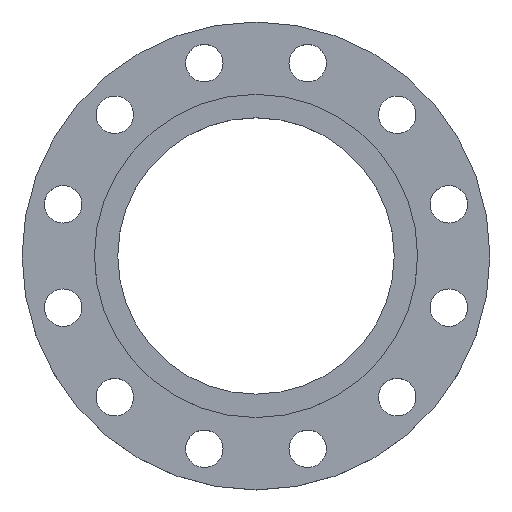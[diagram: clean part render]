
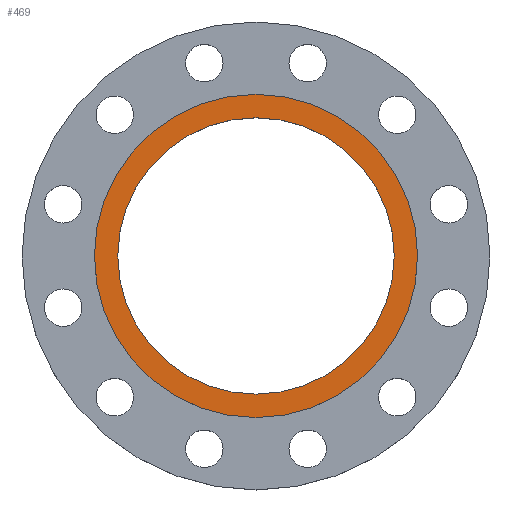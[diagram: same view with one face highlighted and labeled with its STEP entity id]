
A CAD part, top view. The second image highlights one B-rep face of the part: STEP entity #469.
In plain terms, the highlighted planar face has unit normal (0, 0, 1).
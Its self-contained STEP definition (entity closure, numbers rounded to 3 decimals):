
#10 = ORIENTED_EDGE ( 'NONE', *, *, #477, .T. ) ;
#28 = CARTESIAN_POINT ( 'NONE',  ( 0., 0., 0. ) ) ;
#49 = CARTESIAN_POINT ( 'NONE',  ( -110.75, 0., 0. ) ) ;
#122 = ORIENTED_EDGE ( 'NONE', *, *, #193, .F. ) ;
#157 = CIRCLE ( 'NONE', #160, 129.5 ) ;
#160 = AXIS2_PLACEMENT_3D ( 'NONE', #333, #703, #1045 ) ;
#193 = EDGE_CURVE ( 'NONE', #860, #520, #157, .T. ) ;
#204 = CARTESIAN_POINT ( 'NONE',  ( 0., 0., 0. ) ) ;
#213 = CARTESIAN_POINT ( 'NONE',  ( 129.5, 0., 0. ) ) ;
#259 = DIRECTION ( 'NONE',  ( -1., 0., 0. ) ) ;
#299 = DIRECTION ( 'NONE',  ( 0., 0., 1. ) ) ;
#308 = CIRCLE ( 'NONE', #973, 110.75 ) ;
#333 = CARTESIAN_POINT ( 'NONE',  ( 0., 0., 0. ) ) ;
#399 = FACE_OUTER_BOUND ( 'NONE', #543, .T. ) ;
#419 = ORIENTED_EDGE ( 'NONE', *, *, #615, .T. ) ;
#420 = AXIS2_PLACEMENT_3D ( 'NONE', #1099, #299, #677 ) ;
#423 = CIRCLE ( 'NONE', #431, 110.75 ) ;
#431 = AXIS2_PLACEMENT_3D ( 'NONE', #204, #596, #936 ) ;
#432 = VERTEX_POINT ( 'NONE', #1016 ) ;
#436 = DIRECTION ( 'NONE',  ( 0., 0., -1. ) ) ;
#469 = ADVANCED_FACE ( 'NONE', ( #1173, #399 ), #756, .T. ) ;
#477 = EDGE_CURVE ( 'NONE', #1053, #432, #423, .T. ) ;
#478 = EDGE_LOOP ( 'NONE', ( #10, #419 ) ) ;
#520 = VERTEX_POINT ( 'NONE', #213 ) ;
#543 = EDGE_LOOP ( 'NONE', ( #122, #867 ) ) ;
#596 = DIRECTION ( 'NONE',  ( 0., 0., -1. ) ) ;
#615 = EDGE_CURVE ( 'NONE', #432, #1053, #308, .T. ) ;
#677 = DIRECTION ( 'NONE',  ( 1., 0., 0. ) ) ;
#679 = CARTESIAN_POINT ( 'NONE',  ( -129.5, 0., 0. ) ) ;
#703 = DIRECTION ( 'NONE',  ( 0., 0., -1. ) ) ;
#725 = CARTESIAN_POINT ( 'NONE',  ( 0., 0., 0. ) ) ;
#740 = EDGE_CURVE ( 'NONE', #520, #860, #1012, .T. ) ;
#756 = PLANE ( 'NONE',  #420 ) ;
#788 = DIRECTION ( 'NONE',  ( -1., 0., 0. ) ) ;
#860 = VERTEX_POINT ( 'NONE', #679 ) ;
#867 = ORIENTED_EDGE ( 'NONE', *, *, #740, .F. ) ;
#936 = DIRECTION ( 'NONE',  ( -1., 0., 0. ) ) ;
#973 = AXIS2_PLACEMENT_3D ( 'NONE', #28, #436, #788 ) ;
#1012 = CIRCLE ( 'NONE', #1140, 129.5 ) ;
#1016 = CARTESIAN_POINT ( 'NONE',  ( 110.75, 0., 0. ) ) ;
#1045 = DIRECTION ( 'NONE',  ( -1., 0., 0. ) ) ;
#1053 = VERTEX_POINT ( 'NONE', #49 ) ;
#1068 = DIRECTION ( 'NONE',  ( 0., 0., -1. ) ) ;
#1099 = CARTESIAN_POINT ( 'NONE',  ( 0., 0., 0. ) ) ;
#1140 = AXIS2_PLACEMENT_3D ( 'NONE', #725, #1068, #259 ) ;
#1173 = FACE_BOUND ( 'NONE', #478, .T. ) ;
